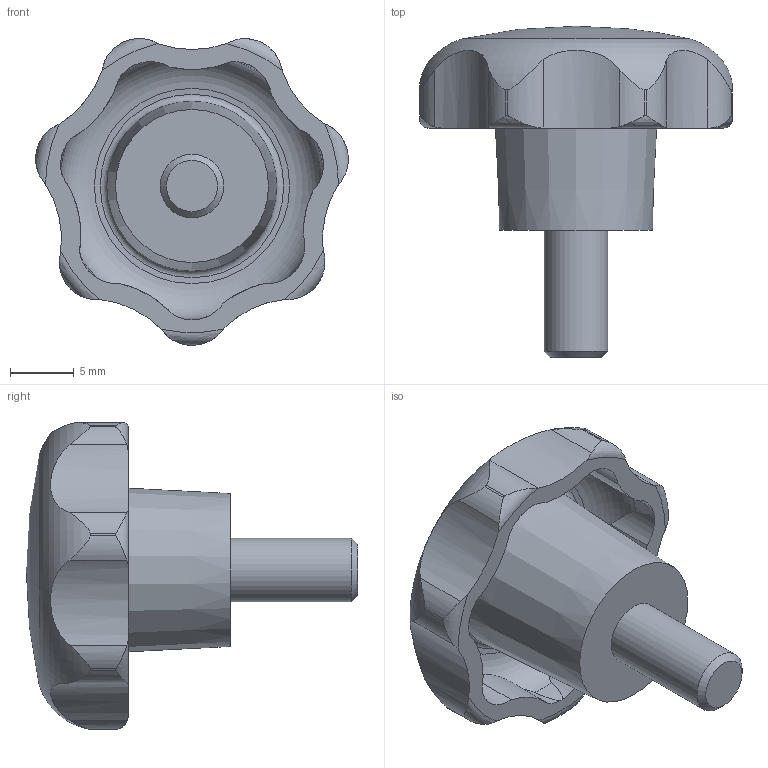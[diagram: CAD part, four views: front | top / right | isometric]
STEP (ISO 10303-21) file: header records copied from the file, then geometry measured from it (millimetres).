
FILE_DESCRIPTION( ( 'STEP AP203' ), '1' );
FILE_NAME( 'C:/Temp/Ganter_Step_05_03_2020/data/2_2/gn_6336_4/gn_6336_4_st/Star knob GN 6336.4-ST-25-M5-10.stp', '2020-03-05T12:07:12', ( 'License CC BY-ND 4.0' ), ( 'CADENAS' ), ' ', 'PARTsolutions', ' ' );
FILE_SCHEMA( ( 'CONFIG_CONTROL_DESIGN' ) );
Length unit declared in the file: millimetre
Products named in the file (1): _Star knob GN 6336.4-ST-25-M5-10
Bounding box: 24.52 x 26 x 24.06 mm (x, y, z)
Volume: 3323.1 mm3; surface area: 2172.3 mm2
Topology: 1 solids, 1 shells, 74 faces, 209 edges, 138 vertices
Faces by surface type: cylinder 50, torus 10, cone 10, plane 3, sphere 1
Full cylindrical faces by diameter (mm): 5 x1
Entity records: 3129 total; most frequent: CARTESIAN_POINT 1317, ORIENTED_EDGE 394, DIRECTION 336, EDGE_CURVE 197, AXIS2_PLACEMENT_3D 147, VERTEX_POINT 135, EDGE_LOOP 83, B_SPLINE_CURVE_WITH_KNOTS 83
